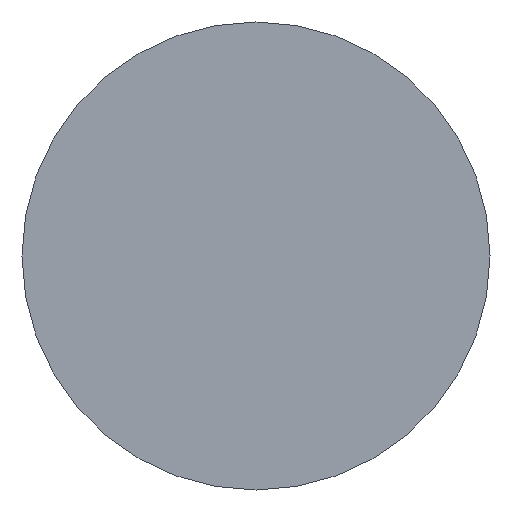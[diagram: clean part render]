
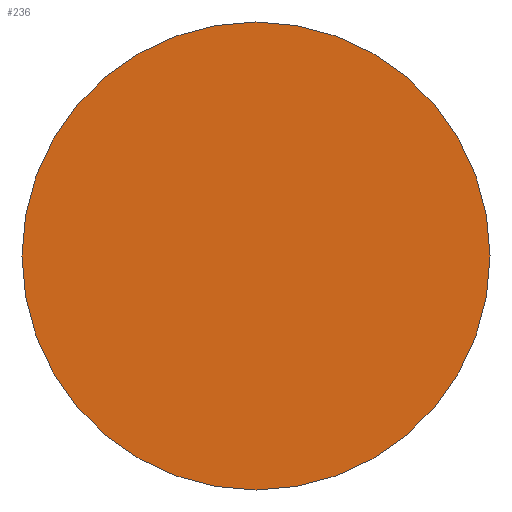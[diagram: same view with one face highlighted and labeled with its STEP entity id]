
A CAD part, left-side view. The second image highlights one B-rep face of the part: STEP entity #236.
In plain terms, the highlighted planar face has unit normal (-1, 0, 0).
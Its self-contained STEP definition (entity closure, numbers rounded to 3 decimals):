
#23 = VERTEX_POINT ( 'NONE', #141 ) ;
#44 = EDGE_LOOP ( 'NONE', ( #80, #102 ) ) ;
#47 = DIRECTION ( 'NONE',  ( 0., 1., 0. ) ) ;
#51 = DIRECTION ( 'NONE',  ( 1., 0., 0. ) ) ;
#66 = VERTEX_POINT ( 'NONE', #269 ) ;
#80 = ORIENTED_EDGE ( 'NONE', *, *, #208, .F. ) ;
#86 = CARTESIAN_POINT ( 'NONE',  ( 0., 0., 0. ) ) ;
#93 = DIRECTION ( 'NONE',  ( 0., -1., 0. ) ) ;
#102 = ORIENTED_EDGE ( 'NONE', *, *, #246, .F. ) ;
#107 = PLANE ( 'NONE',  #171 ) ;
#121 = CARTESIAN_POINT ( 'NONE',  ( 0., 0., 0. ) ) ;
#129 = CIRCLE ( 'NONE', #264, 11. ) ;
#138 = CIRCLE ( 'NONE', #185, 11. ) ;
#141 = CARTESIAN_POINT ( 'NONE',  ( 0., -11., 0. ) ) ;
#143 = CARTESIAN_POINT ( 'NONE',  ( 0., 0., 0. ) ) ;
#165 = DIRECTION ( 'NONE',  ( 0., 1., 0. ) ) ;
#167 = FACE_OUTER_BOUND ( 'NONE', #44, .T. ) ;
#171 = AXIS2_PLACEMENT_3D ( 'NONE', #121, #217, #93 ) ;
#185 = AXIS2_PLACEMENT_3D ( 'NONE', #143, #51, #47 ) ;
#189 = DIRECTION ( 'NONE',  ( 1., 0., 0. ) ) ;
#208 = EDGE_CURVE ( 'NONE', #66, #23, #129, .T. ) ;
#217 = DIRECTION ( 'NONE',  ( -1., 0., 0. ) ) ;
#236 = ADVANCED_FACE ( 'NONE', ( #167 ), #107, .T. ) ;
#246 = EDGE_CURVE ( 'NONE', #23, #66, #138, .T. ) ;
#264 = AXIS2_PLACEMENT_3D ( 'NONE', #86, #189, #165 ) ;
#269 = CARTESIAN_POINT ( 'NONE',  ( 0., 11., 0. ) ) ;
